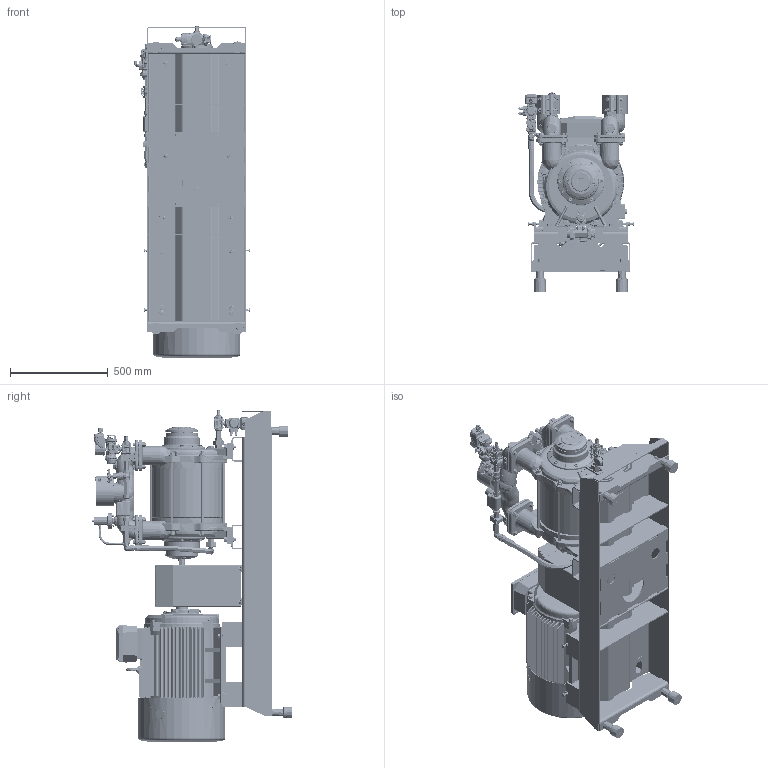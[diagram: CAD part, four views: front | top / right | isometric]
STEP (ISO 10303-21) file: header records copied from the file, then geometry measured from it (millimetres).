
FILE_DESCRIPTION(/* description */ (''),/* implementation_level */ '2;1');
FILE_NAME(/* name */ '1700139.stp',/* time_stamp */ '2025-04-28T15:11:37+02:00',/* author */ ('JJ'),/* organization */ (''),/* preprocessor_version */ 'ST-DEVELOPER v20',/* originating_system */ 'Autodesk Inventor 2025',/* authorisation */ '');
FILE_SCHEMA (('AUTOMOTIVE_DESIGN { 1 0 10303 214 3 1 1 }'));
Products named in the file (1): 1700139
Bounding box: 593.35 x 1025.65 x 1698.73 mm (x, y, z)
Volume: 106901240 mm3; surface area: 14090520.3 mm2
Topology: 234 solids, 234 shells, 26674 faces, 68927 edges, 43797 vertices
Faces by surface type: plane 12729, cylinder 5430, bspline 4437, cone 2222, torus 1655, sphere 201
Full cylindrical faces by diameter (mm): 0.8 x1, 0.847 x2, 0.857 x2, 1.656 x4, 1.7 x4, 1.8 x4, 2 x20, 2.2 x1, 2.5 x6, 3 x4, 3.2 x2, 3.3 x4, 3.6 x4, 4 x4, 4.134 x8, 4.2 x16, 4.3 x8, 4.45 x3, 4.567 x8, 4.917 x15, 4.92 x4, 5 x12, 5.3 x8, 5.6 x16, 6 x46, 6.1 x1, 6.4 x9, 6.5 x12, 6.647 x2, 6.7 x16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
Entity records: 1276813 total; most frequent: CARTESIAN_POINT 628816, ORIENTED_EDGE 137402, DIRECTION 116149, EDGE_CURVE 68701, VERTEX_POINT 43813, AXIS2_PLACEMENT_3D 39802, LINE 36545, VECTOR 36545
